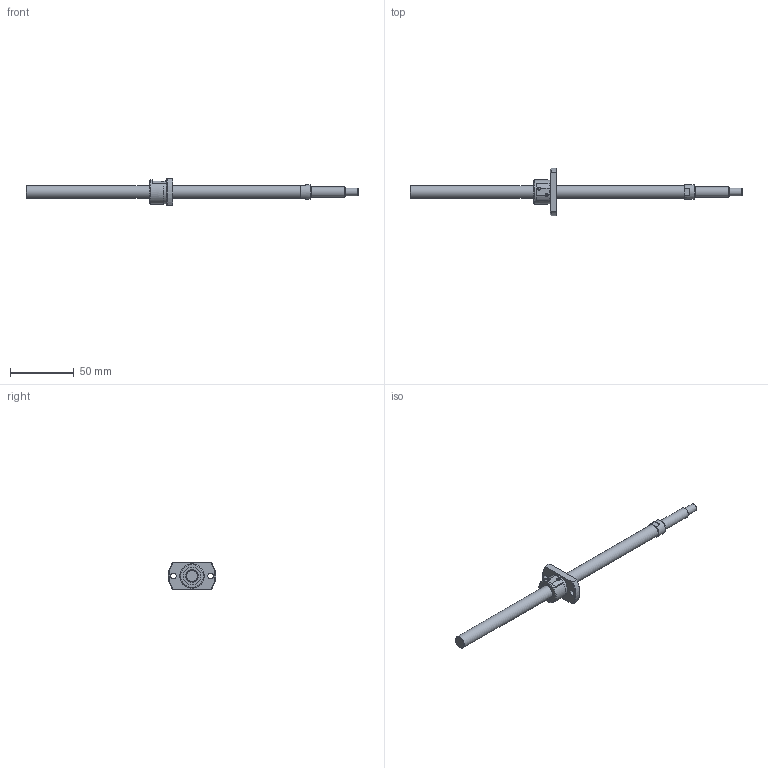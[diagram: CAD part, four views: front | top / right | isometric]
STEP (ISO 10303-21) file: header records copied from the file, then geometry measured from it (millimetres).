
FILE_DESCRIPTION( ( 'STEP AP214' ), '1' );
FILE_NAME( 'p:/temp/worker_6/3108_1760/app_79_12015063014103000319032260eae72_00_00_00_000/STEP/SG1001-212R260C3A1X_97__2_14.stp', ' ', ( ' ' ), ( ' ' ), 'PSStep 15.0.47', 'PARTsolutions', ' ' );
FILE_SCHEMA( ( 'AUTOMOTIVE_DESIGN { 1 0 10303 214 1 1 1 1 }' ) );
Length unit declared in the file: millimetre
Products named in the file (3): SG1001-212R260C3A1X(97); _SG1001-212R260C3A_shaft; _SG1001_nut
Assembly tree (2 placements, depth 2):
  SG1001-212R260C3A1X(97)
    _SG1001-212R260C3A_shaft
    _SG1001_nut
Bounding box: 260 x 36.86 x 21 mm (x, y, z)
Volume: 24819.6 mm3; surface area: 11372.8 mm2
Topology: 2 solids, 2 shells, 74 faces, 183 edges, 120 vertices
Faces by surface type: plane 35, cylinder 25, cone 13, torus 1
Full cylindrical faces by diameter (mm): 4.5 x2, 6 x1, 8 x1, 10 x2, 11.5 x1, 14 x2, 18.5 x1, 19 x1
Entity records: 2710 total; most frequent: CARTESIAN_POINT 421, DIRECTION 354, ORIENTED_EDGE 304, EDGE_CURVE 152, AXIS2_PLACEMENT_3D 147, VERTEX_POINT 110, EDGE_LOOP 108, FACE_OUTER_BOUND 86
